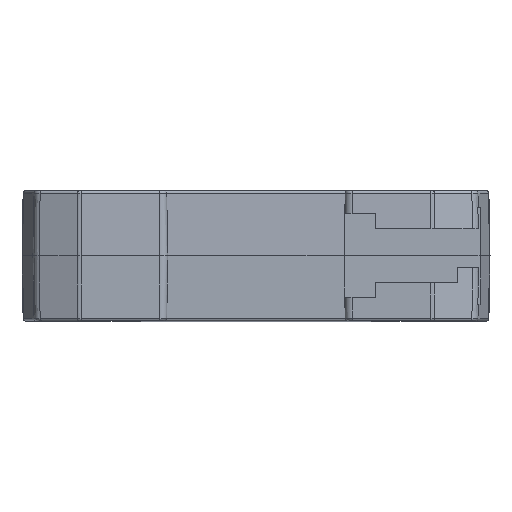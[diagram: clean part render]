
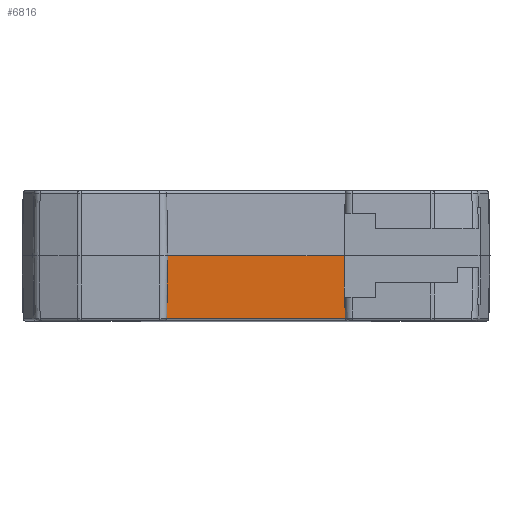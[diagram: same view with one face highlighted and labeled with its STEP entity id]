
A CAD part, top view. The second image highlights one B-rep face of the part: STEP entity #6816.
In plain terms, the highlighted planar face has unit normal (0, -0.018, 1).
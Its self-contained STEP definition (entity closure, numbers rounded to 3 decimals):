
#32 = ORIENTED_EDGE ( 'PT101', *, *, #7807, .T. ) ;
#100 = VECTOR ( 'PT101', #2069, 1000. ) ;
#1043 = CARTESIAN_POINT ( 'PT101',  ( -19.3, 0., 27.1 ) ) ;
#1397 = ORIENTED_EDGE ( 'PT101', *, *, #5981, .T. ) ;
#1720 = DIRECTION ( 'PT101',  ( -0.017, 1., 0.017 ) ) ;
#1748 = VERTEX_POINT ( 'PT101', #2931 ) ;
#1857 = VERTEX_POINT ( 'PT101', #10864 ) ;
#2069 = DIRECTION ( 'PT101',  ( -1., 0., 0. ) ) ;
#2407 = VECTOR ( 'PT101', #2555, 1000. ) ;
#2475 = EDGE_CURVE ( 'PT101', #1748, #7915, #5281, .T. ) ;
#2555 = DIRECTION ( 'PT101',  ( -1., 0., 0. ) ) ;
#2595 = AXIS2_PLACEMENT_3D ( 'PT101', #12102, #5570, #9843 ) ;
#2931 = CARTESIAN_POINT ( 'PT101',  ( -19.51, -12.009, 26.89 ) ) ;
#3418 = DIRECTION ( 'PT101',  ( 0.017, 1., 0.017 ) ) ;
#3499 = VERTEX_POINT ( 'PT101', #11583 ) ;
#3864 = EDGE_LOOP ( 'PT101', ( #32, #7309, #4019, #6410, #12771, #1397 ) ) ;
#4019 = ORIENTED_EDGE ( 'PT101', *, *, #12868, .T. ) ;
#4398 = CARTESIAN_POINT ( 'PT101',  ( 16.9, -9.85, 26.928 ) ) ;
#5281 = LINE ( 'PT101', #5805, #6870 ) ;
#5513 = LINE ( 'PT101', #11085, #7089 ) ;
#5570 = DIRECTION ( 'PT101',  ( 0., -0.017, 1. ) ) ;
#5805 = CARTESIAN_POINT ( 'PT101',  ( -19.3, -12.009, 26.89 ) ) ;
#5981 = EDGE_CURVE ( 'PT101', #7915, #10134, #9769, .T. ) ;
#6381 = LINE ( 'PT101', #9151, #2407 ) ;
#6410 = ORIENTED_EDGE ( 'PT101', *, *, #14088, .F. ) ;
#6816 = ADVANCED_FACE ( 'PT101', ( #7127 ), #8899, .T. ) ;
#6870 = VECTOR ( 'PT101', #13503, 1000. ) ;
#7089 = VECTOR ( 'PT101', #7874, 1000. ) ;
#7127 = FACE_OUTER_BOUND ( 'PT101', #3864, .T. ) ;
#7162 = CARTESIAN_POINT ( 'PT101',  ( 16.9, 0., 27.1 ) ) ;
#7309 = ORIENTED_EDGE ( 'PT101', *, *, #8917, .T. ) ;
#7747 = VECTOR ( 'PT101', #1720, 1000. ) ;
#7807 = EDGE_CURVE ( 'PT101', #10134, #12973, #6381, .T. ) ;
#7874 = DIRECTION ( 'PT101',  ( 0., 1., 0.017 ) ) ;
#7915 = VERTEX_POINT ( 'PT101', #10700 ) ;
#8170 = LINE ( 'PT101', #9150, #9347 ) ;
#8899 = PLANE ( 'PT101',  #2595 ) ;
#8917 = EDGE_CURVE ( 'PT101', #12973, #3499, #5513, .T. ) ;
#9150 = CARTESIAN_POINT ( 'PT101',  ( -19.3, 0., 27.1 ) ) ;
#9151 = CARTESIAN_POINT ( 'PT101',  ( -19.3, -9.85, 26.928 ) ) ;
#9347 = VECTOR ( 'PT101', #3418, 1000. ) ;
#9769 = LINE ( 'PT101', #7162, #7747 ) ;
#9843 = DIRECTION ( 'PT101',  ( 0., -1., -0.017 ) ) ;
#10134 = VERTEX_POINT ( 'PT101', #10401 ) ;
#10401 = CARTESIAN_POINT ( 'PT101',  ( 17.072, -9.85, 26.928 ) ) ;
#10700 = CARTESIAN_POINT ( 'PT101',  ( 17.11, -12.009, 26.89 ) ) ;
#10864 = CARTESIAN_POINT ( 'PT101',  ( -19.3, 0., 27.1 ) ) ;
#11085 = CARTESIAN_POINT ( 'PT101',  ( 16.9, 0., 27.1 ) ) ;
#11583 = CARTESIAN_POINT ( 'PT101',  ( 16.9, 0., 27.1 ) ) ;
#12102 = CARTESIAN_POINT ( 'PT101',  ( -19.3, 0., 27.1 ) ) ;
#12771 = ORIENTED_EDGE ( 'PT101', *, *, #2475, .T. ) ;
#12868 = EDGE_CURVE ( 'PT101', #3499, #1857, #14020, .T. ) ;
#12973 = VERTEX_POINT ( 'PT101', #4398 ) ;
#13503 = DIRECTION ( 'PT101',  ( 1., 0., 0. ) ) ;
#14020 = LINE ( 'PT101', #1043, #100 ) ;
#14088 = EDGE_CURVE ( 'PT101', #1748, #1857, #8170, .T. ) ;
